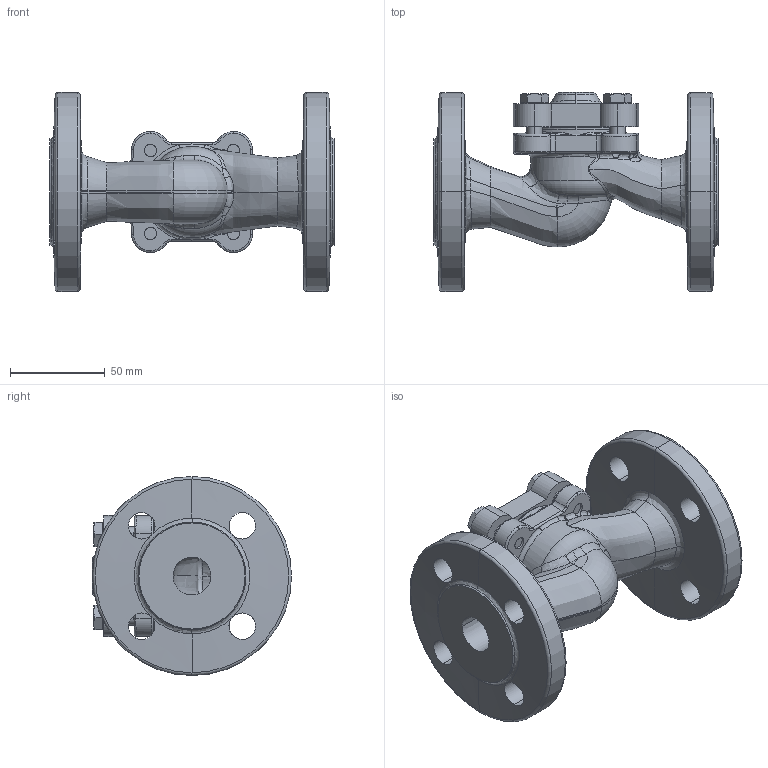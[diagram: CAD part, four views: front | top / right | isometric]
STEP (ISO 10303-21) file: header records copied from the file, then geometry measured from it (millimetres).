
FILE_DESCRIPTION (( 'STEP AP203' ), '1' );
FILE_NAME ('TCV_DN20 PN16.STEP', '2024-08-15T11:51:48', ( '' ), ( '' ), 'SwSTEP 2.0', 'SolidWorks 2023', '' );
FILE_SCHEMA (( 'CONFIG_CONTROL_DESIGN' ));
Length unit declared in the file: millimetre
Products named in the file (1): TCV_DN20 PN16
Bounding box: 150 x 105 x 105 mm (x, y, z)
Volume: 382857.3 mm3; surface area: 93506 mm2
Topology: 6 solids, 6 shells, 446 faces, 1063 edges, 619 vertices
Faces by surface type: bspline 148, cylinder 109, plane 100, cone 54, torus 32, sphere 3
Entity records: 64749 total; most frequent: CARTESIAN_POINT 55894, ORIENTED_EDGE 2106, DIRECTION 1366, EDGE_CURVE 1053, VERTEX_POINT 619, AXIS2_PLACEMENT_3D 548, EDGE_LOOP 482, B_SPLINE_CURVE_WITH_KNOTS 454
